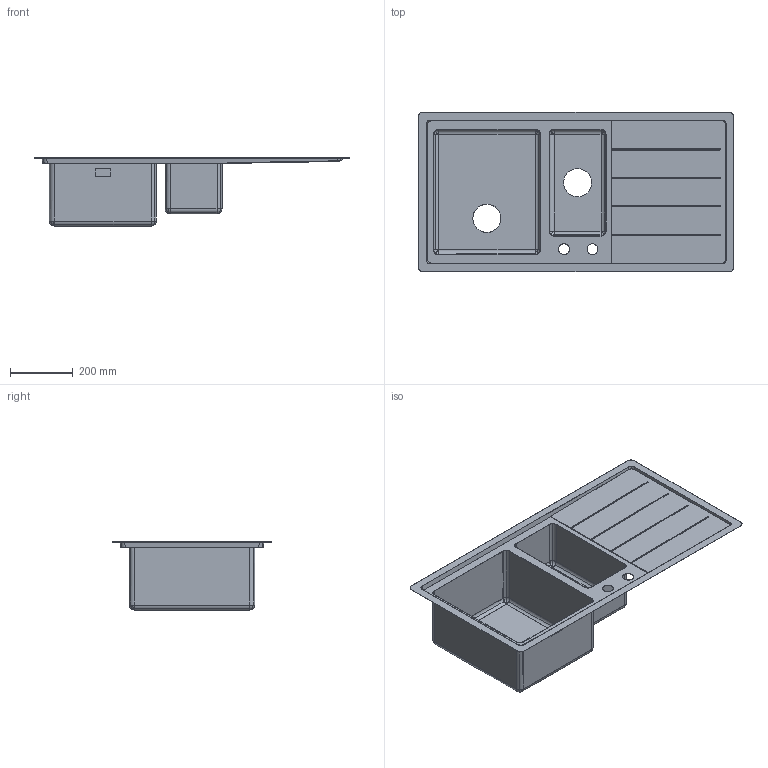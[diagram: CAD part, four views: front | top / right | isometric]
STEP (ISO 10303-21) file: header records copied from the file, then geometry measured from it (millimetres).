
FILE_DESCRIPTION(('CATIA V5 STEP Exchange'),'2;1');
FILE_NAME('C:\Users\linop\Desktop\LFT102S.stp','2018-05-30T15:11:58+00:00',('none'),('none'),'CATIA Version 5-6 Release 2014','CATIA V5 STEP AP203','none');
FILE_SCHEMA(('CONFIG_CONTROL_DESIGN'));
Length unit declared in the file: millimetre
Products named in the file (1): LFT102S
Bounding box: 1010 x 510 x 217.7 mm (x, y, z)
Volume: 869370.3 mm3; surface area: 1958512.8 mm2
Topology: 3 solids, 3 shells, 198 faces, 540 edges, 296 vertices
Faces by surface type: cylinder 88, sphere 56, plane 54
Entity records: 6476 total; most frequent: CARTESIAN_POINT 1976, ORIENTED_EDGE 968, DIRECTION 793, EDGE_CURVE 484, AXIS2_PLACEMENT_3D 361, VERTEX_POINT 296, VECTOR 236, LINE 236
